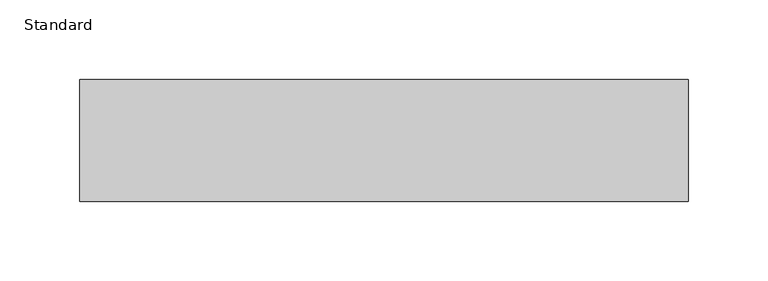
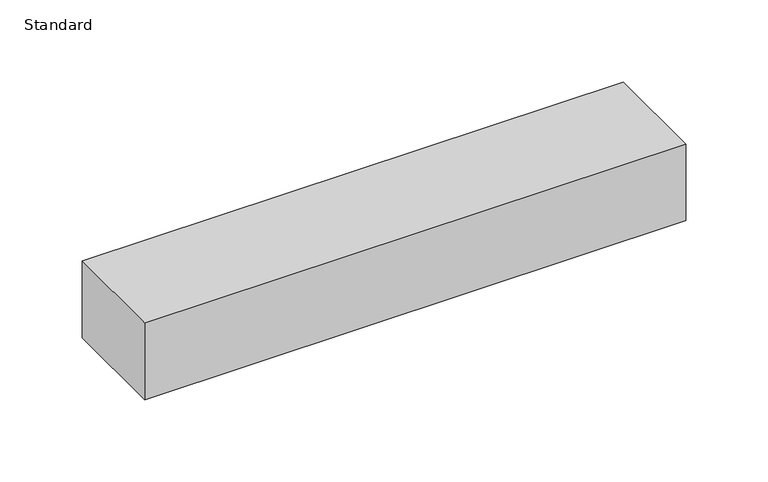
"""IFC4 building model written with IfcOpenShell, lengths in millimetres: proxy geometry, Raceway-ALA3800_Series-Wiremold-Steel : Standard."""

from ifc_helpers import new_model, si_unit, origin, origin_with_axes, place, context, project, spatial, polyline, outline, extrude, source, transform, mapped, element, save


def standard_ac4fb43b(model_context):
    return source(origin(), model_context, "Body", "SweptSolid", [
        extrude(outline(polyline([(381.0, 38.1), (381.0, -38.1), (0.0, -38.1), (0.0, 38.1), (381.0, 38.1)])), origin_with_axes(), (0.0, 0.0, 1.0), 57.15),
    ])


if __name__ == "__main__":
    model = new_model("IFC4")
    model_context = context("Model", 3, world=origin())
    ifc_project = project(units=[si_unit("LENGTHUNIT", "METRE", prefix="MILLI")], contexts=[model_context])
    site = spatial("IfcSite", under=ifc_project)
    building = spatial("IfcBuilding", under=site)
    placement = place(None, origin())
    standard_shape = standard_ac4fb43b(model_context)
    element("IfcBuildingElementProxy", 1, Name="Raceway-ALA3800_Series-Wiremold-Steel : Standard", ObjectType="Raceway-ALA3800_Series-Wiremold-Steel : Standard", at=placement, inside=building, context=model_context, shape_type="MappedRepresentation", body=[
        mapped(standard_shape, transform((0.0, 0.0, 0.0), x_axis=(1.0, 0.0, 0.0), y_axis=(0.0, 1.0, 0.0), z_axis=(0.0, 0.0, 1.0))),
    ])
    save(model, "model.ifc")
